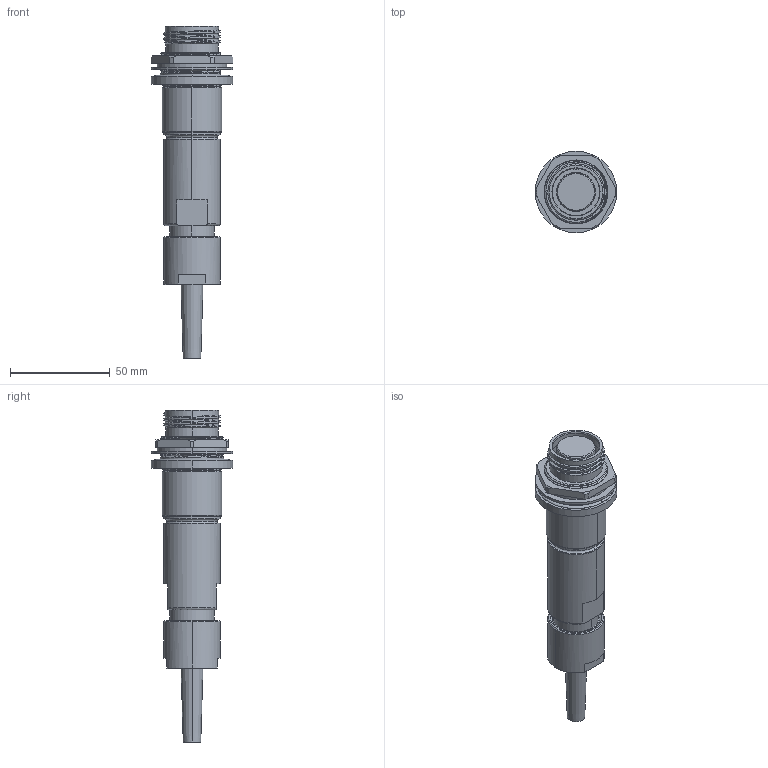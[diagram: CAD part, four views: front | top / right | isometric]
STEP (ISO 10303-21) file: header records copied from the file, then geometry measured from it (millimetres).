
FILE_DESCRIPTION (( 'STEP AP214' ), '1' );
FILE_NAME ('QLINK-RJTX-17XX-SXXX.STEP', '2025-09-30T22:01:25', ( '' ), ( '' ), 'SwSTEP 2.0', 'SolidWorks 2024', '' );
FILE_SCHEMA (( 'AUTOMOTIVE_DESIGN' ));
Length unit declared in the file: inch
Products named in the file (1): QLINK-RJTX-17XX-SXXX
Bounding box: 41.02 x 41.02 x 166.83 mm (x, y, z)
Volume: 86898 mm3; surface area: 24981.4 mm2
Topology: 2 solids, 2 shells, 222 faces, 574 edges, 371 vertices
Faces by surface type: cylinder 79, plane 45, cone 41, bspline 35, torus 22
Entity records: 17436 total; most frequent: CARTESIAN_POINT 12433, ORIENTED_EDGE 1148, DIRECTION 945, EDGE_CURVE 574, AXIS2_PLACEMENT_3D 396, VERTEX_POINT 371, EDGE_LOOP 247, ADVANCED_FACE 222
